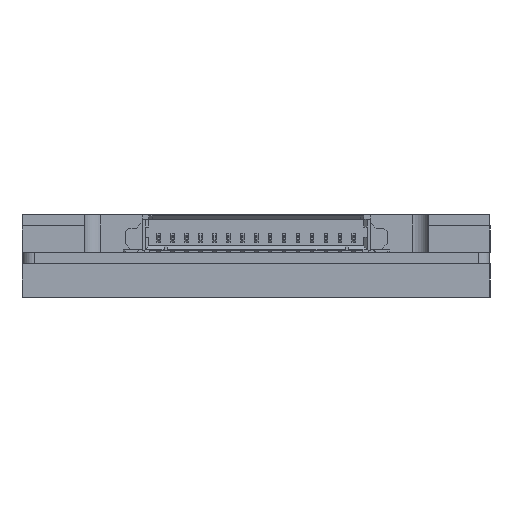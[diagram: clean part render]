
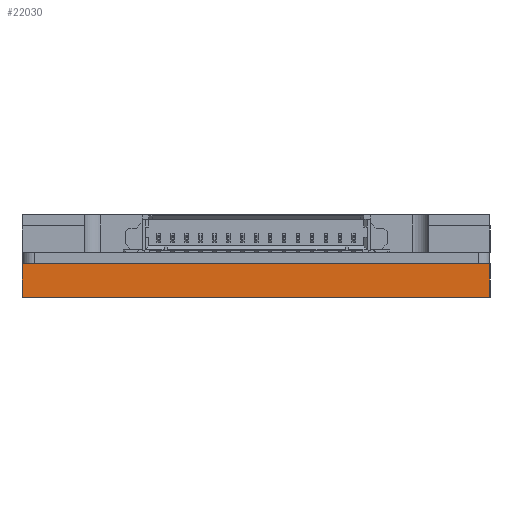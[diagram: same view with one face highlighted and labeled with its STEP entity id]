
A CAD part, left-side view. The second image highlights one B-rep face of the part: STEP entity #22030.
In plain terms, the highlighted planar face has unit normal (-1, 0, 0).
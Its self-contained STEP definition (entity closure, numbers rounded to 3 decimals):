
#18506 = PLANE('',#18507);
#18507 = AXIS2_PLACEMENT_3D('',#18508,#18509,#18510);
#18508 = CARTESIAN_POINT('',(30.,21.,2.5));
#18509 = DIRECTION('',(0.,0.,-1.));
#18510 = DIRECTION('',(-1.,0.,0.));
#18962 = PLANE('',#18963);
#18963 = AXIS2_PLACEMENT_3D('',#18964,#18965,#18966);
#18964 = CARTESIAN_POINT('',(-30.,-21.,-0.5));
#18965 = DIRECTION('',(0.,-1.,0.));
#18966 = DIRECTION('',(1.,0.,0.));
#18990 = PLANE('',#18991);
#18991 = AXIS2_PLACEMENT_3D('',#18992,#18993,#18994);
#18992 = CARTESIAN_POINT('',(-30.,21.,-0.5));
#18993 = DIRECTION('',(0.,0.,-1.));
#18994 = DIRECTION('',(-1.,0.,0.));
#19016 = PLANE('',#19017);
#19017 = AXIS2_PLACEMENT_3D('',#19018,#19019,#19020);
#19018 = CARTESIAN_POINT('',(30.,21.,-0.5));
#19019 = DIRECTION('',(0.,1.,0.));
#19020 = DIRECTION('',(0.,0.,1.));
#21691 = VERTEX_POINT('',#21692);
#21692 = CARTESIAN_POINT('',(-30.,21.,2.5));
#21713 = EDGE_CURVE('',#21691,#21714,#21716,.T.);
#21714 = VERTEX_POINT('',#21715);
#21715 = CARTESIAN_POINT('',(-30.,-21.,2.5));
#21716 = SURFACE_CURVE('',#21717,(#21721,#21728),.PCURVE_S1.);
#21717 = LINE('',#21718,#21719);
#21718 = CARTESIAN_POINT('',(-30.,21.,2.5));
#21719 = VECTOR('',#21720,1.);
#21720 = DIRECTION('',(0.,-1.,0.));
#21721 = PCURVE('',#18506,#21722);
#21722 = DEFINITIONAL_REPRESENTATION('',(#21723),#21727);
#21723 = LINE('',#21724,#21725);
#21724 = CARTESIAN_POINT('',(60.,0.));
#21725 = VECTOR('',#21726,1.);
#21726 = DIRECTION('',(0.,-1.));
#21727 = ( GEOMETRIC_REPRESENTATION_CONTEXT(2) 
PARAMETRIC_REPRESENTATION_CONTEXT() REPRESENTATION_CONTEXT('2D SPACE',''
  ) );
#21728 = PCURVE('',#21729,#21734);
#21729 = PLANE('',#21730);
#21730 = AXIS2_PLACEMENT_3D('',#21731,#21732,#21733);
#21731 = CARTESIAN_POINT('',(-30.,21.,-0.5));
#21732 = DIRECTION('',(-1.,0.,0.));
#21733 = DIRECTION('',(0.,-1.,0.));
#21734 = DEFINITIONAL_REPRESENTATION('',(#21735),#21739);
#21735 = LINE('',#21736,#21737);
#21736 = CARTESIAN_POINT('',(0.,3.));
#21737 = VECTOR('',#21738,1.);
#21738 = DIRECTION('',(1.,0.));
#21739 = ( GEOMETRIC_REPRESENTATION_CONTEXT(2) 
PARAMETRIC_REPRESENTATION_CONTEXT() REPRESENTATION_CONTEXT('2D SPACE',''
  ) );
#22030 = ADVANCED_FACE('',(#22031),#21729,.T.);
#22031 = FACE_BOUND('',#22032,.T.);
#22032 = EDGE_LOOP('',(#22033,#22056,#22057,#22080));
#22033 = ORIENTED_EDGE('',*,*,#22034,.T.);
#22034 = EDGE_CURVE('',#22035,#21714,#22037,.T.);
#22035 = VERTEX_POINT('',#22036);
#22036 = CARTESIAN_POINT('',(-30.,-21.,-0.5));
#22037 = SURFACE_CURVE('',#22038,(#22042,#22049),.PCURVE_S1.);
#22038 = LINE('',#22039,#22040);
#22039 = CARTESIAN_POINT('',(-30.,-21.,-0.5));
#22040 = VECTOR('',#22041,1.);
#22041 = DIRECTION('',(0.,0.,1.));
#22042 = PCURVE('',#21729,#22043);
#22043 = DEFINITIONAL_REPRESENTATION('',(#22044),#22048);
#22044 = LINE('',#22045,#22046);
#22045 = CARTESIAN_POINT('',(42.,0.));
#22046 = VECTOR('',#22047,1.);
#22047 = DIRECTION('',(0.,1.));
#22048 = ( GEOMETRIC_REPRESENTATION_CONTEXT(2) 
PARAMETRIC_REPRESENTATION_CONTEXT() REPRESENTATION_CONTEXT('2D SPACE',''
  ) );
#22049 = PCURVE('',#18962,#22050);
#22050 = DEFINITIONAL_REPRESENTATION('',(#22051),#22055);
#22051 = LINE('',#22052,#22053);
#22052 = CARTESIAN_POINT('',(0.,0.));
#22053 = VECTOR('',#22054,1.);
#22054 = DIRECTION('',(0.,1.));
#22055 = ( GEOMETRIC_REPRESENTATION_CONTEXT(2) 
PARAMETRIC_REPRESENTATION_CONTEXT() REPRESENTATION_CONTEXT('2D SPACE',''
  ) );
#22056 = ORIENTED_EDGE('',*,*,#21713,.F.);
#22057 = ORIENTED_EDGE('',*,*,#22058,.F.);
#22058 = EDGE_CURVE('',#22059,#21691,#22061,.T.);
#22059 = VERTEX_POINT('',#22060);
#22060 = CARTESIAN_POINT('',(-30.,21.,-0.5));
#22061 = SURFACE_CURVE('',#22062,(#22066,#22073),.PCURVE_S1.);
#22062 = LINE('',#22063,#22064);
#22063 = CARTESIAN_POINT('',(-30.,21.,-0.5));
#22064 = VECTOR('',#22065,1.);
#22065 = DIRECTION('',(0.,0.,1.));
#22066 = PCURVE('',#21729,#22067);
#22067 = DEFINITIONAL_REPRESENTATION('',(#22068),#22072);
#22068 = LINE('',#22069,#22070);
#22069 = CARTESIAN_POINT('',(0.,0.));
#22070 = VECTOR('',#22071,1.);
#22071 = DIRECTION('',(0.,1.));
#22072 = ( GEOMETRIC_REPRESENTATION_CONTEXT(2) 
PARAMETRIC_REPRESENTATION_CONTEXT() REPRESENTATION_CONTEXT('2D SPACE',''
  ) );
#22073 = PCURVE('',#19016,#22074);
#22074 = DEFINITIONAL_REPRESENTATION('',(#22075),#22079);
#22075 = LINE('',#22076,#22077);
#22076 = CARTESIAN_POINT('',(0.,-60.));
#22077 = VECTOR('',#22078,1.);
#22078 = DIRECTION('',(1.,0.));
#22079 = ( GEOMETRIC_REPRESENTATION_CONTEXT(2) 
PARAMETRIC_REPRESENTATION_CONTEXT() REPRESENTATION_CONTEXT('2D SPACE',''
  ) );
#22080 = ORIENTED_EDGE('',*,*,#22081,.T.);
#22081 = EDGE_CURVE('',#22059,#22035,#22082,.T.);
#22082 = SURFACE_CURVE('',#22083,(#22087,#22094),.PCURVE_S1.);
#22083 = LINE('',#22084,#22085);
#22084 = CARTESIAN_POINT('',(-30.,21.,-0.5));
#22085 = VECTOR('',#22086,1.);
#22086 = DIRECTION('',(0.,-1.,0.));
#22087 = PCURVE('',#21729,#22088);
#22088 = DEFINITIONAL_REPRESENTATION('',(#22089),#22093);
#22089 = LINE('',#22090,#22091);
#22090 = CARTESIAN_POINT('',(0.,0.));
#22091 = VECTOR('',#22092,1.);
#22092 = DIRECTION('',(1.,0.));
#22093 = ( GEOMETRIC_REPRESENTATION_CONTEXT(2) 
PARAMETRIC_REPRESENTATION_CONTEXT() REPRESENTATION_CONTEXT('2D SPACE',''
  ) );
#22094 = PCURVE('',#18990,#22095);
#22095 = DEFINITIONAL_REPRESENTATION('',(#22096),#22100);
#22096 = LINE('',#22097,#22098);
#22097 = CARTESIAN_POINT('',(0.,0.));
#22098 = VECTOR('',#22099,1.);
#22099 = DIRECTION('',(0.,-1.));
#22100 = ( GEOMETRIC_REPRESENTATION_CONTEXT(2) 
PARAMETRIC_REPRESENTATION_CONTEXT() REPRESENTATION_CONTEXT('2D SPACE',''
  ) );
